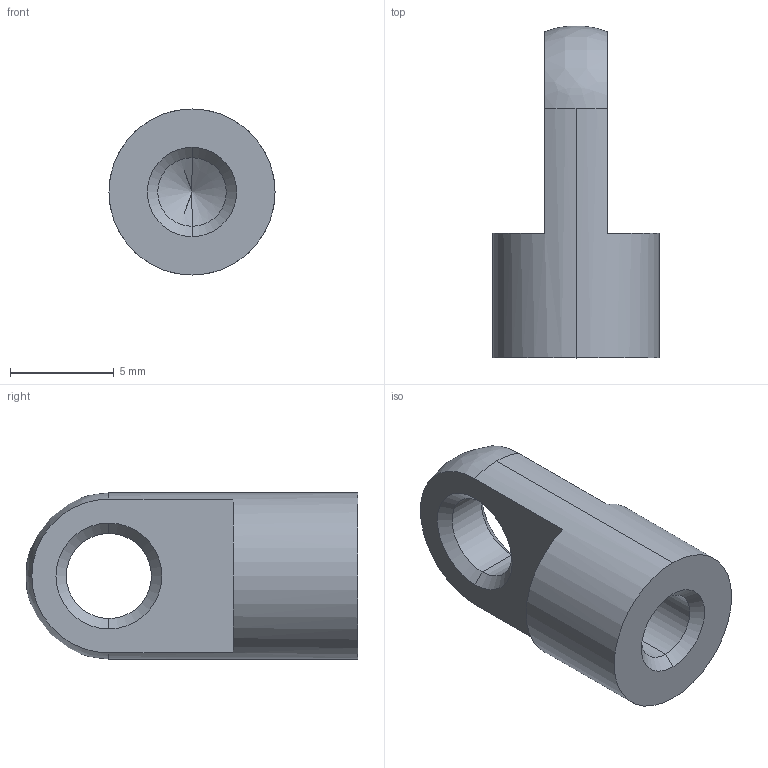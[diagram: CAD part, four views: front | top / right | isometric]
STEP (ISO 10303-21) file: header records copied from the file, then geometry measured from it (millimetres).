
FILE_DESCRIPTION (( 'STEP AP214' ), '1' );
FILE_NAME ('18.04A1.STEP', '2017-11-09T12:17:57', ( '' ), ( '' ), 'SwSTEP 2.0', 'SolidWorks 2016', '' );
FILE_SCHEMA (( 'AUTOMOTIVE_DESIGN' ));
Length unit declared in the file: millimetre
Products named in the file (1): 18.04A1
Bounding box: 8 x 15.99 x 8 mm (x, y, z)
Volume: 423.9 mm3; surface area: 490.6 mm2
Topology: 1 solids, 1 shells, 21 faces, 49 edges, 29 vertices
Faces by surface type: cone 8, cylinder 6, plane 5, bspline 2
Entity records: 652 total; most frequent: CARTESIAN_POINT 128, DIRECTION 114, ORIENTED_EDGE 94, EDGE_CURVE 47, AXIS2_PLACEMENT_3D 47, VERTEX_POINT 29, CIRCLE 27, EDGE_LOOP 24
